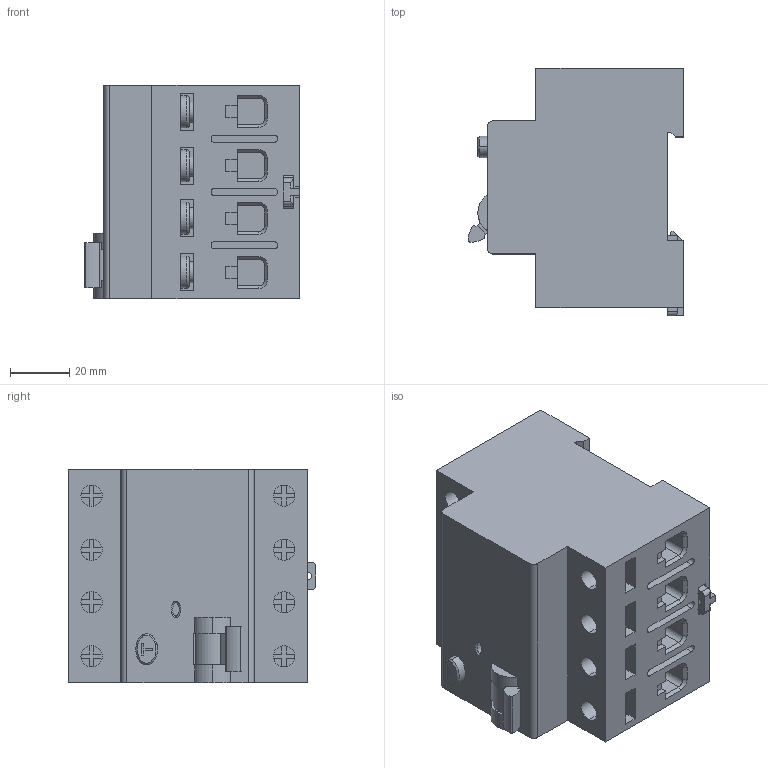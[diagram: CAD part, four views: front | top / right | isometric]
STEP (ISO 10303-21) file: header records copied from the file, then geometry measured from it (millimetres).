
FILE_DESCRIPTION (( 'STEP AP214' ), '1' );
FILE_NAME ('Aardlekschakelaar 4P.STEP', '2025-07-29T12:48:32', ( '' ), ( '' ), 'SwSTEP 2.0', 'SolidWorks 2025', '' );
FILE_SCHEMA (( 'AUTOMOTIVE_DESIGN' ));
Length unit declared in the file: millimetre
Products named in the file (3): CAD #9; Lipje algemeen 2; Aardlekschakelaar 4P
Assembly tree (2 placements, depth 2):
  Aardlekschakelaar 4P
    CAD #9
    Lipje algemeen 2
Bounding box: 72.86 x 83.65 x 72 mm (x, y, z)
Volume: 310613.9 mm3; surface area: 45193.2 mm2
Topology: 2 solids, 2 shells, 606 faces, 1528 edges, 966 vertices
Faces by surface type: plane 456, cylinder 110, torus 16, cone 16, bspline 8
Entity records: 20139 total; most frequent: CARTESIAN_POINT 5284, DIRECTION 3060, ORIENTED_EDGE 3056, EDGE_CURVE 1528, VECTOR 1162, LINE 1162, VERTEX_POINT 966, AXIS2_PLACEMENT_3D 949
